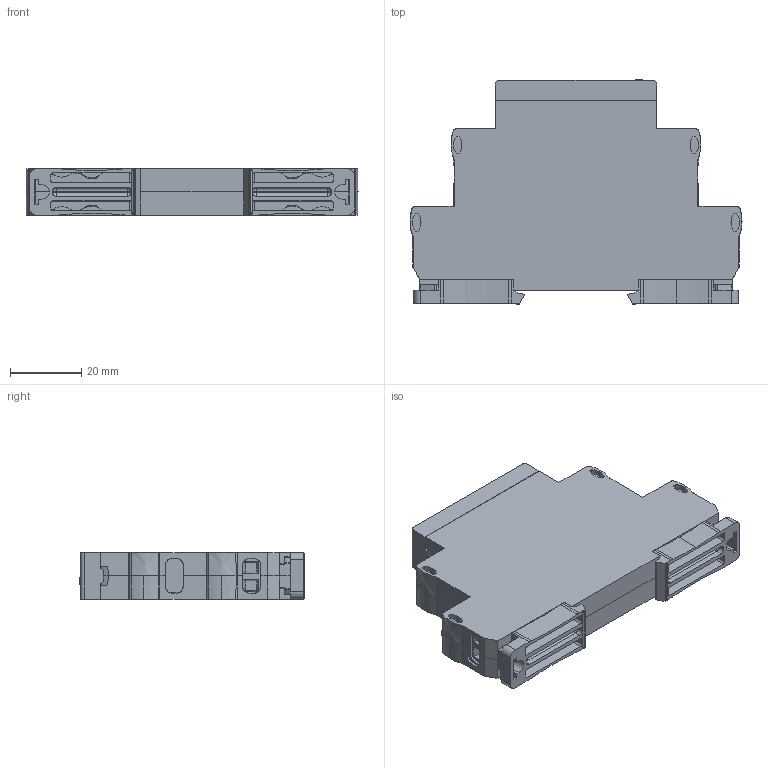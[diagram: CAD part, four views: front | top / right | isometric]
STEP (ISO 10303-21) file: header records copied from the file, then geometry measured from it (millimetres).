
FILE_DESCRIPTION (( 'STEP AP214' ), '1' );
FILE_NAME ('Assem_2020-10-14_MRP-101.STEP', '2020-10-14T11:45:06', ( '' ), ( '' ), 'SwSTEP 2.0', 'SolidWorks 2012', '' );
FILE_SCHEMA (( 'AUTOMOTIVE_DESIGN' ));
Length unit declared in the file: millimetre
Products named in the file (11): ﾌﾐﾏ-101_face; ﾌﾐﾏ-101_UL-N; ﾌﾐﾏ-101_LU-N; Mark_Meandr_EAC; LightPipe_x3x2x1_v2015-0_build20160120_x1; DG128-5.08_Configurable_5.08x2; Case13-18-23mm_2step_Lock_v01a; Case13-18-23mm_2step_Face_v011_13mm_MRP-101,108; Case13-18-23mm_2step_plug_v01_13mm; Case13-18-23mm_2step_Half_v01c_6.5mm; Assem_2020-10-14_MRP-101
Assembly tree (18 placements, depth 2):
  Assem_2020-10-14_MRP-101
    Case13-18-23mm_2step_Half_v01c_6.5mm  x2
    Case13-18-23mm_2step_plug_v01_13mm  x4
    Case13-18-23mm_2step_Face_v011_13mm_MRP-101,108
    Case13-18-23mm_2step_Lock_v01a  x2
    DG128-5.08_Configurable_5.08x2  x4
    LightPipe_x3x2x1_v2015-0_build20160120_x1
    Mark_Meandr_EAC
    ﾌﾐﾏ-101_LU-N
    ﾌﾐﾏ-101_UL-N
    ﾌﾐﾏ-101_face
Bounding box: 93 x 62.9 x 13.05 mm (x, y, z)
Volume: 21695.7 mm3; surface area: 34689.1 mm2
Topology: 101 solids, 101 shells, 2815 faces, 7591 edges, 5006 vertices
Faces by surface type: plane 2025, bspline 420, cylinder 320, cone 32, torus 10, sphere 8
Entity records: 72494 total; most frequent: CARTESIAN_POINT 16739, ORIENTED_EDGE 10698, DIRECTION 8025, EDGE_CURVE 5349, LINE 4135, VECTOR 4135, VERTEX_POINT 3548, EDGE_LOOP 2113
